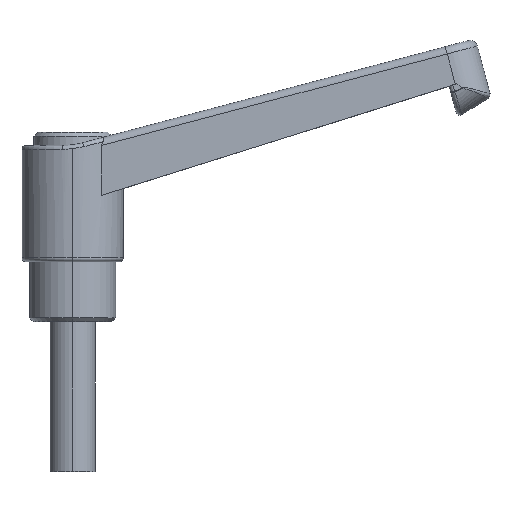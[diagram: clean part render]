
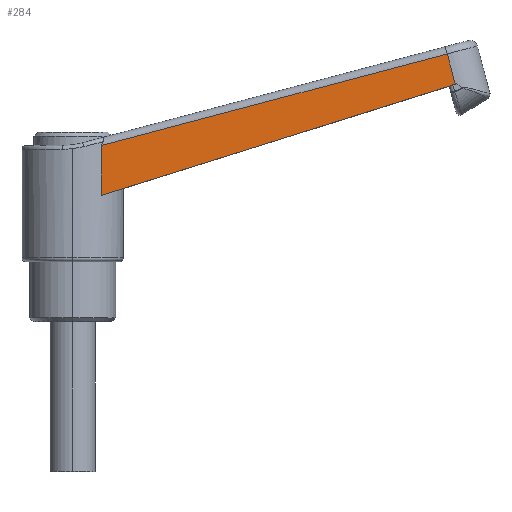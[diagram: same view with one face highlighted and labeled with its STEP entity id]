
A CAD part, top view. The second image highlights one B-rep face of the part: STEP entity #284.
In plain terms, the highlighted planar face has unit normal (0.026, 0.007, 1).
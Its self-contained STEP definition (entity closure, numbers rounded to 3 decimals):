
#58 = VECTOR ( 'NONE', #2429, 1000. ) ;
#180 = CARTESIAN_POINT ( 'NONE',  ( 7.709, -4.489, 11.083 ) ) ;
#193 = EDGE_CURVE ( 'NONE', #528, #1386, #1768, .T. ) ;
#246 = CARTESIAN_POINT ( 'NONE',  ( 7.618, -13.315, 11.145 ) ) ;
#267 = EDGE_LOOP ( 'NONE', ( #868, #469, #1573, #1419 ) ) ;
#284 = ADVANCED_FACE ( 'NONE', ( #1537 ), #1015, .T. ) ;
#469 = ORIENTED_EDGE ( 'NONE', *, *, #1229, .T. ) ;
#528 = VERTEX_POINT ( 'NONE', #2405 ) ;
#600 = LINE ( 'NONE', #608, #1527 ) ;
#608 = CARTESIAN_POINT ( 'NONE',  ( 108.013, 26.567, 8.3 ) ) ;
#630 = AXIS2_PLACEMENT_3D ( 'NONE', #1375, #1007, #997 ) ;
#789 =( BOUNDED_CURVE ( )  B_SPLINE_CURVE ( 3, ( #2393, #1154, #180, #1503 ),
 .UNSPECIFIED., .F., .F. ) 
 B_SPLINE_CURVE_WITH_KNOTS ( ( 4, 4 ),
 ( 0.574, 0.586 ),
 .UNSPECIFIED. ) 
 CURVE ( )  GEOMETRIC_REPRESENTATION_ITEM ( )  RATIONAL_B_SPLINE_CURVE ( ( 1., 1., 1., 1. ) ) 
 REPRESENTATION_ITEM ( '' )  );
#868 = ORIENTED_EDGE ( 'NONE', *, *, #1206, .T. ) ;
#986 = CARTESIAN_POINT ( 'NONE',  ( 99.993, 24.441, 8.52 ) ) ;
#997 = DIRECTION ( 'NONE',  ( -0.256, 0.967, 0. ) ) ;
#1003 = DIRECTION ( 'NONE',  ( -0.954, -0.299, 0.026 ) ) ;
#1007 = DIRECTION ( 'NONE',  ( 0.026, 0.007, 1. ) ) ;
#1015 = PLANE ( 'NONE',  #630 ) ;
#1018 = VERTEX_POINT ( 'NONE', #1117 ) ;
#1117 = CARTESIAN_POINT ( 'NONE',  ( 7.754, -0.013, 11.051 ) ) ;
#1154 = CARTESIAN_POINT ( 'NONE',  ( 7.663, -8.922, 11.114 ) ) ;
#1157 = VERTEX_POINT ( 'NONE', #986 ) ;
#1158 = CARTESIAN_POINT ( 'NONE',  ( 56.953, 2.167, 9.775 ) ) ;
#1206 = EDGE_CURVE ( 'NONE', #528, #1157, #2063, .T. ) ;
#1229 = EDGE_CURVE ( 'NONE', #1157, #1018, #600, .T. ) ;
#1356 = CARTESIAN_POINT ( 'NONE',  ( 118.452, -45.186, 8.52 ) ) ;
#1375 = CARTESIAN_POINT ( 'NONE',  ( 110.063, 18.834, 8.3 ) ) ;
#1386 = VERTEX_POINT ( 'NONE', #246 ) ;
#1419 = ORIENTED_EDGE ( 'NONE', *, *, #193, .F. ) ;
#1503 = CARTESIAN_POINT ( 'NONE',  ( 7.754, -0.013, 11.051 ) ) ;
#1527 = VECTOR ( 'NONE', #2247, 1000. ) ;
#1537 = FACE_OUTER_BOUND ( 'NONE', #267, .T. ) ;
#1573 = ORIENTED_EDGE ( 'NONE', *, *, #2349, .F. ) ;
#1768 = LINE ( 'NONE', #1158, #2309 ) ;
#2063 = LINE ( 'NONE', #1356, #58 ) ;
#2247 = DIRECTION ( 'NONE',  ( -0.966, -0.256, 0.027 ) ) ;
#2309 = VECTOR ( 'NONE', #1003, 1000. ) ;
#2349 = EDGE_CURVE ( 'NONE', #1386, #1018, #789, .T. ) ;
#2393 = CARTESIAN_POINT ( 'NONE',  ( 7.618, -13.315, 11.145 ) ) ;
#2405 = CARTESIAN_POINT ( 'NONE',  ( 102.138, 16.347, 8.52 ) ) ;
#2429 = DIRECTION ( 'NONE',  ( -0.256, 0.967, 0. ) ) ;
